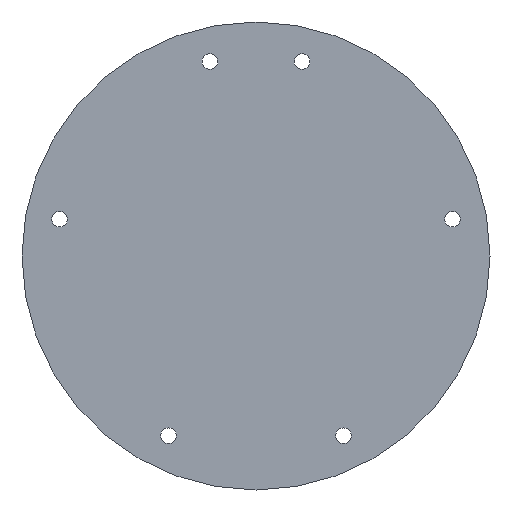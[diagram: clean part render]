
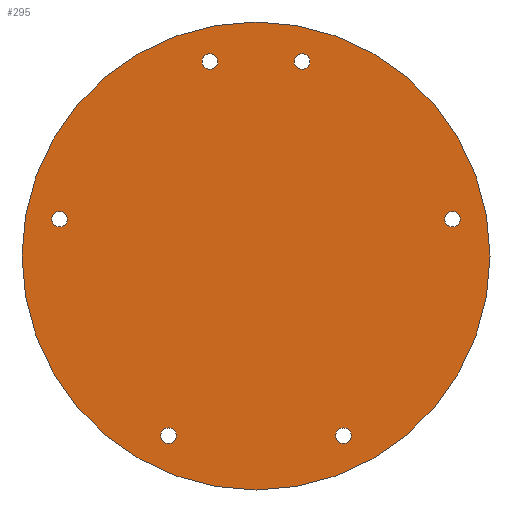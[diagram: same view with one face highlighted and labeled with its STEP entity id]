
A CAD part, left-side view. The second image highlights one B-rep face of the part: STEP entity #295.
In plain terms, the highlighted planar face has unit normal (-1, 0, 0).
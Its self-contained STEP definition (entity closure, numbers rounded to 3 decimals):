
#31 = CYLINDRICAL_SURFACE('',#32,50.8);
#32 = AXIS2_PLACEMENT_3D('',#33,#34,#35);
#33 = CARTESIAN_POINT('',(0.,50.8,50.8));
#34 = DIRECTION('',(1.,0.,0.));
#35 = DIRECTION('',(-0.,0.,1.));
#56 = VERTEX_POINT('',#57);
#57 = CARTESIAN_POINT('',(0.,50.8,101.6));
#78 = EDGE_CURVE('',#56,#56,#79,.T.);
#79 = SURFACE_CURVE('',#80,(#85,#92),.PCURVE_S1.);
#80 = CIRCLE('',#81,50.8);
#81 = AXIS2_PLACEMENT_3D('',#82,#83,#84);
#82 = CARTESIAN_POINT('',(0.,50.8,50.8));
#83 = DIRECTION('',(1.,0.,0.));
#84 = DIRECTION('',(-0.,0.,1.));
#85 = PCURVE('',#31,#86);
#86 = DEFINITIONAL_REPRESENTATION('',(#87),#91);
#87 = LINE('',#88,#89);
#88 = CARTESIAN_POINT('',(0.,0.));
#89 = VECTOR('',#90,1.);
#90 = DIRECTION('',(1.,0.));
#91 = ( GEOMETRIC_REPRESENTATION_CONTEXT(2) 
PARAMETRIC_REPRESENTATION_CONTEXT() REPRESENTATION_CONTEXT('2D SPACE',''
  ) );
#92 = PCURVE('',#93,#98);
#93 = PLANE('',#94);
#94 = AXIS2_PLACEMENT_3D('',#95,#96,#97);
#95 = CARTESIAN_POINT('',(0.,50.8,50.8));
#96 = DIRECTION('',(1.,0.,0.));
#97 = DIRECTION('',(-0.,0.,1.));
#98 = DEFINITIONAL_REPRESENTATION('',(#99),#103);
#99 = CIRCLE('',#100,50.8);
#100 = AXIS2_PLACEMENT_2D('',#101,#102);
#101 = CARTESIAN_POINT('',(0.,0.));
#102 = DIRECTION('',(1.,0.));
#103 = ( GEOMETRIC_REPRESENTATION_CONTEXT(2) 
PARAMETRIC_REPRESENTATION_CONTEXT() REPRESENTATION_CONTEXT('2D SPACE',''
  ) );
#129 = CYLINDRICAL_SURFACE('',#130,1.7);
#130 = AXIS2_PLACEMENT_3D('',#131,#132,#133);
#131 = CARTESIAN_POINT('',(-1.,69.8,11.78));
#132 = DIRECTION('',(1.,0.,0.));
#133 = DIRECTION('',(-0.,0.,1.));
#160 = CYLINDRICAL_SURFACE('',#161,1.7);
#161 = AXIS2_PLACEMENT_3D('',#162,#163,#164);
#162 = CARTESIAN_POINT('',(-1.,93.43,58.8));
#163 = DIRECTION('',(1.,0.,0.));
#164 = DIRECTION('',(-0.,0.,1.));
#191 = CYLINDRICAL_SURFACE('',#192,1.7);
#192 = AXIS2_PLACEMENT_3D('',#193,#194,#195);
#193 = CARTESIAN_POINT('',(-1.,60.8,93.));
#194 = DIRECTION('',(1.,0.,0.));
#195 = DIRECTION('',(-0.,0.,1.));
#222 = CYLINDRICAL_SURFACE('',#223,1.7);
#223 = AXIS2_PLACEMENT_3D('',#224,#225,#226);
#224 = CARTESIAN_POINT('',(-1.,31.8,11.78));
#225 = DIRECTION('',(1.,0.,0.));
#226 = DIRECTION('',(-0.,0.,1.));
#253 = CYLINDRICAL_SURFACE('',#254,1.7);
#254 = AXIS2_PLACEMENT_3D('',#255,#256,#257);
#255 = CARTESIAN_POINT('',(-1.,40.8,93.));
#256 = DIRECTION('',(1.,0.,0.));
#257 = DIRECTION('',(-0.,0.,1.));
#284 = CYLINDRICAL_SURFACE('',#285,1.7);
#285 = AXIS2_PLACEMENT_3D('',#286,#287,#288);
#286 = CARTESIAN_POINT('',(-1.,8.17,58.8));
#287 = DIRECTION('',(1.,0.,0.));
#288 = DIRECTION('',(-0.,0.,1.));
#295 = ADVANCED_FACE('',(#296,#299,#325,#351,#377,#403,#429),#93,.F.);
#296 = FACE_BOUND('',#297,.F.);
#297 = EDGE_LOOP('',(#298));
#298 = ORIENTED_EDGE('',*,*,#78,.T.);
#299 = FACE_BOUND('',#300,.F.);
#300 = EDGE_LOOP('',(#301));
#301 = ORIENTED_EDGE('',*,*,#302,.F.);
#302 = EDGE_CURVE('',#303,#303,#305,.T.);
#303 = VERTEX_POINT('',#304);
#304 = CARTESIAN_POINT('',(0.,69.8,13.48));
#305 = SURFACE_CURVE('',#306,(#311,#318),.PCURVE_S1.);
#306 = CIRCLE('',#307,1.7);
#307 = AXIS2_PLACEMENT_3D('',#308,#309,#310);
#308 = CARTESIAN_POINT('',(0.,69.8,11.78));
#309 = DIRECTION('',(1.,0.,0.));
#310 = DIRECTION('',(-0.,0.,1.));
#311 = PCURVE('',#93,#312);
#312 = DEFINITIONAL_REPRESENTATION('',(#313),#317);
#313 = CIRCLE('',#314,1.7);
#314 = AXIS2_PLACEMENT_2D('',#315,#316);
#315 = CARTESIAN_POINT('',(-39.02,-19.));
#316 = DIRECTION('',(1.,0.));
#317 = ( GEOMETRIC_REPRESENTATION_CONTEXT(2) 
PARAMETRIC_REPRESENTATION_CONTEXT() REPRESENTATION_CONTEXT('2D SPACE',''
  ) );
#318 = PCURVE('',#129,#319);
#319 = DEFINITIONAL_REPRESENTATION('',(#320),#324);
#320 = LINE('',#321,#322);
#321 = CARTESIAN_POINT('',(0.,1.));
#322 = VECTOR('',#323,1.);
#323 = DIRECTION('',(1.,0.));
#324 = ( GEOMETRIC_REPRESENTATION_CONTEXT(2) 
PARAMETRIC_REPRESENTATION_CONTEXT() REPRESENTATION_CONTEXT('2D SPACE',''
  ) );
#325 = FACE_BOUND('',#326,.F.);
#326 = EDGE_LOOP('',(#327));
#327 = ORIENTED_EDGE('',*,*,#328,.F.);
#328 = EDGE_CURVE('',#329,#329,#331,.T.);
#329 = VERTEX_POINT('',#330);
#330 = CARTESIAN_POINT('',(0.,93.43,60.5));
#331 = SURFACE_CURVE('',#332,(#337,#344),.PCURVE_S1.);
#332 = CIRCLE('',#333,1.7);
#333 = AXIS2_PLACEMENT_3D('',#334,#335,#336);
#334 = CARTESIAN_POINT('',(0.,93.43,58.8));
#335 = DIRECTION('',(1.,0.,0.));
#336 = DIRECTION('',(-0.,0.,1.));
#337 = PCURVE('',#93,#338);
#338 = DEFINITIONAL_REPRESENTATION('',(#339),#343);
#339 = CIRCLE('',#340,1.7);
#340 = AXIS2_PLACEMENT_2D('',#341,#342);
#341 = CARTESIAN_POINT('',(8.,-42.63));
#342 = DIRECTION('',(1.,0.));
#343 = ( GEOMETRIC_REPRESENTATION_CONTEXT(2) 
PARAMETRIC_REPRESENTATION_CONTEXT() REPRESENTATION_CONTEXT('2D SPACE',''
  ) );
#344 = PCURVE('',#160,#345);
#345 = DEFINITIONAL_REPRESENTATION('',(#346),#350);
#346 = LINE('',#347,#348);
#347 = CARTESIAN_POINT('',(0.,1.));
#348 = VECTOR('',#349,1.);
#349 = DIRECTION('',(1.,0.));
#350 = ( GEOMETRIC_REPRESENTATION_CONTEXT(2) 
PARAMETRIC_REPRESENTATION_CONTEXT() REPRESENTATION_CONTEXT('2D SPACE',''
  ) );
#351 = FACE_BOUND('',#352,.F.);
#352 = EDGE_LOOP('',(#353));
#353 = ORIENTED_EDGE('',*,*,#354,.F.);
#354 = EDGE_CURVE('',#355,#355,#357,.T.);
#355 = VERTEX_POINT('',#356);
#356 = CARTESIAN_POINT('',(0.,60.8,94.7));
#357 = SURFACE_CURVE('',#358,(#363,#370),.PCURVE_S1.);
#358 = CIRCLE('',#359,1.7);
#359 = AXIS2_PLACEMENT_3D('',#360,#361,#362);
#360 = CARTESIAN_POINT('',(0.,60.8,93.));
#361 = DIRECTION('',(1.,0.,0.));
#362 = DIRECTION('',(-0.,0.,1.));
#363 = PCURVE('',#93,#364);
#364 = DEFINITIONAL_REPRESENTATION('',(#365),#369);
#365 = CIRCLE('',#366,1.7);
#366 = AXIS2_PLACEMENT_2D('',#367,#368);
#367 = CARTESIAN_POINT('',(42.2,-10.));
#368 = DIRECTION('',(1.,0.));
#369 = ( GEOMETRIC_REPRESENTATION_CONTEXT(2) 
PARAMETRIC_REPRESENTATION_CONTEXT() REPRESENTATION_CONTEXT('2D SPACE',''
  ) );
#370 = PCURVE('',#191,#371);
#371 = DEFINITIONAL_REPRESENTATION('',(#372),#376);
#372 = LINE('',#373,#374);
#373 = CARTESIAN_POINT('',(0.,1.));
#374 = VECTOR('',#375,1.);
#375 = DIRECTION('',(1.,0.));
#376 = ( GEOMETRIC_REPRESENTATION_CONTEXT(2) 
PARAMETRIC_REPRESENTATION_CONTEXT() REPRESENTATION_CONTEXT('2D SPACE',''
  ) );
#377 = FACE_BOUND('',#378,.F.);
#378 = EDGE_LOOP('',(#379));
#379 = ORIENTED_EDGE('',*,*,#380,.F.);
#380 = EDGE_CURVE('',#381,#381,#383,.T.);
#381 = VERTEX_POINT('',#382);
#382 = CARTESIAN_POINT('',(0.,31.8,13.48));
#383 = SURFACE_CURVE('',#384,(#389,#396),.PCURVE_S1.);
#384 = CIRCLE('',#385,1.7);
#385 = AXIS2_PLACEMENT_3D('',#386,#387,#388);
#386 = CARTESIAN_POINT('',(0.,31.8,11.78));
#387 = DIRECTION('',(1.,0.,0.));
#388 = DIRECTION('',(-0.,0.,1.));
#389 = PCURVE('',#93,#390);
#390 = DEFINITIONAL_REPRESENTATION('',(#391),#395);
#391 = CIRCLE('',#392,1.7);
#392 = AXIS2_PLACEMENT_2D('',#393,#394);
#393 = CARTESIAN_POINT('',(-39.02,19.));
#394 = DIRECTION('',(1.,0.));
#395 = ( GEOMETRIC_REPRESENTATION_CONTEXT(2) 
PARAMETRIC_REPRESENTATION_CONTEXT() REPRESENTATION_CONTEXT('2D SPACE',''
  ) );
#396 = PCURVE('',#222,#397);
#397 = DEFINITIONAL_REPRESENTATION('',(#398),#402);
#398 = LINE('',#399,#400);
#399 = CARTESIAN_POINT('',(0.,1.));
#400 = VECTOR('',#401,1.);
#401 = DIRECTION('',(1.,0.));
#402 = ( GEOMETRIC_REPRESENTATION_CONTEXT(2) 
PARAMETRIC_REPRESENTATION_CONTEXT() REPRESENTATION_CONTEXT('2D SPACE',''
  ) );
#403 = FACE_BOUND('',#404,.F.);
#404 = EDGE_LOOP('',(#405));
#405 = ORIENTED_EDGE('',*,*,#406,.F.);
#406 = EDGE_CURVE('',#407,#407,#409,.T.);
#407 = VERTEX_POINT('',#408);
#408 = CARTESIAN_POINT('',(0.,40.8,94.7));
#409 = SURFACE_CURVE('',#410,(#415,#422),.PCURVE_S1.);
#410 = CIRCLE('',#411,1.7);
#411 = AXIS2_PLACEMENT_3D('',#412,#413,#414);
#412 = CARTESIAN_POINT('',(0.,40.8,93.));
#413 = DIRECTION('',(1.,0.,0.));
#414 = DIRECTION('',(-0.,0.,1.));
#415 = PCURVE('',#93,#416);
#416 = DEFINITIONAL_REPRESENTATION('',(#417),#421);
#417 = CIRCLE('',#418,1.7);
#418 = AXIS2_PLACEMENT_2D('',#419,#420);
#419 = CARTESIAN_POINT('',(42.2,10.));
#420 = DIRECTION('',(1.,0.));
#421 = ( GEOMETRIC_REPRESENTATION_CONTEXT(2) 
PARAMETRIC_REPRESENTATION_CONTEXT() REPRESENTATION_CONTEXT('2D SPACE',''
  ) );
#422 = PCURVE('',#253,#423);
#423 = DEFINITIONAL_REPRESENTATION('',(#424),#428);
#424 = LINE('',#425,#426);
#425 = CARTESIAN_POINT('',(0.,1.));
#426 = VECTOR('',#427,1.);
#427 = DIRECTION('',(1.,0.));
#428 = ( GEOMETRIC_REPRESENTATION_CONTEXT(2) 
PARAMETRIC_REPRESENTATION_CONTEXT() REPRESENTATION_CONTEXT('2D SPACE',''
  ) );
#429 = FACE_BOUND('',#430,.F.);
#430 = EDGE_LOOP('',(#431));
#431 = ORIENTED_EDGE('',*,*,#432,.F.);
#432 = EDGE_CURVE('',#433,#433,#435,.T.);
#433 = VERTEX_POINT('',#434);
#434 = CARTESIAN_POINT('',(0.,8.17,60.5));
#435 = SURFACE_CURVE('',#436,(#441,#448),.PCURVE_S1.);
#436 = CIRCLE('',#437,1.7);
#437 = AXIS2_PLACEMENT_3D('',#438,#439,#440);
#438 = CARTESIAN_POINT('',(0.,8.17,58.8));
#439 = DIRECTION('',(1.,0.,0.));
#440 = DIRECTION('',(-0.,0.,1.));
#441 = PCURVE('',#93,#442);
#442 = DEFINITIONAL_REPRESENTATION('',(#443),#447);
#443 = CIRCLE('',#444,1.7);
#444 = AXIS2_PLACEMENT_2D('',#445,#446);
#445 = CARTESIAN_POINT('',(8.,42.63));
#446 = DIRECTION('',(1.,0.));
#447 = ( GEOMETRIC_REPRESENTATION_CONTEXT(2) 
PARAMETRIC_REPRESENTATION_CONTEXT() REPRESENTATION_CONTEXT('2D SPACE',''
  ) );
#448 = PCURVE('',#284,#449);
#449 = DEFINITIONAL_REPRESENTATION('',(#450),#454);
#450 = LINE('',#451,#452);
#451 = CARTESIAN_POINT('',(0.,1.));
#452 = VECTOR('',#453,1.);
#453 = DIRECTION('',(1.,0.));
#454 = ( GEOMETRIC_REPRESENTATION_CONTEXT(2) 
PARAMETRIC_REPRESENTATION_CONTEXT() REPRESENTATION_CONTEXT('2D SPACE',''
  ) );
